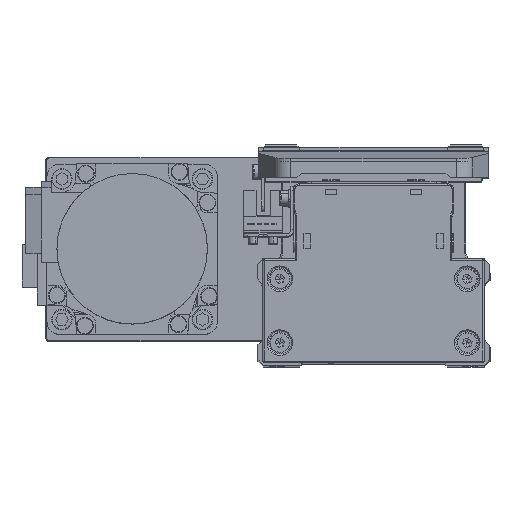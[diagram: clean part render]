
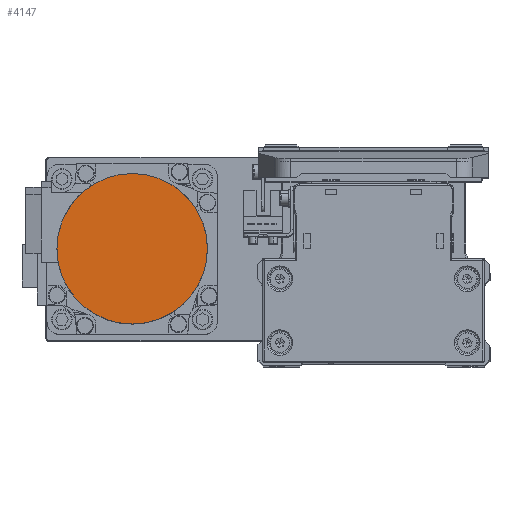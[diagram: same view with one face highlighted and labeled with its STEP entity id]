
A CAD part, top view. The second image highlights one B-rep face of the part: STEP entity #4147.
In plain terms, the highlighted planar face has unit normal (0, 0, 1) as drawn and (0, 0, -1) by its records, which use the part's own axes.
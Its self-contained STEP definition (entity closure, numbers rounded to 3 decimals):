
#7 = AXIS2_PLACEMENT_3D ( 'NONE', #17848, #30318, #2303 ) ;
#530 = DIRECTION ( 'NONE',  ( 0., 0., 1. ) ) ;
#1112 = VERTEX_POINT ( 'NONE', #19759 ) ;
#2303 = DIRECTION ( 'NONE',  ( 1., 0., 0. ) ) ;
#4147 = ADVANCED_FACE ( 'NONE', ( #36793 ), #8781, .F. ) ;
#5696 = DIRECTION ( 'NONE',  ( 1., 0., 0. ) ) ;
#7354 = CARTESIAN_POINT ( 'NONE',  ( 26.5, 0., -109.7 ) ) ;
#8781 = PLANE ( 'NONE',  #37845 ) ;
#11041 = ORIENTED_EDGE ( 'NONE', *, *, #36483, .F. ) ;
#13004 = DIRECTION ( 'NONE',  ( -1., 0., 0. ) ) ;
#15395 = AXIS2_PLACEMENT_3D ( 'NONE', #28536, #530, #13004 ) ;
#17642 = CIRCLE ( 'NONE', #7, 26.5 ) ;
#17848 = CARTESIAN_POINT ( 'NONE',  ( 0., 0., -109.7 ) ) ;
#18843 = EDGE_LOOP ( 'NONE', ( #38732, #11041 ) ) ;
#19759 = CARTESIAN_POINT ( 'NONE',  ( -26.5, 0., -109.7 ) ) ;
#21254 = CARTESIAN_POINT ( 'NONE',  ( 0., 0., -109.7 ) ) ;
#27789 = CIRCLE ( 'NONE', #15395, 26.5 ) ;
#28536 = CARTESIAN_POINT ( 'NONE',  ( 0., 0., -109.7 ) ) ;
#30318 = DIRECTION ( 'NONE',  ( 0., 0., 1. ) ) ;
#33299 = EDGE_CURVE ( 'NONE', #1112, #35514, #27789, .T. ) ;
#33728 = DIRECTION ( 'NONE',  ( 0., 0., 1. ) ) ;
#35514 = VERTEX_POINT ( 'NONE', #7354 ) ;
#36483 = EDGE_CURVE ( 'NONE', #35514, #1112, #17642, .T. ) ;
#36793 = FACE_OUTER_BOUND ( 'NONE', #18843, .T. ) ;
#37845 = AXIS2_PLACEMENT_3D ( 'NONE', #21254, #33728, #5696 ) ;
#38732 = ORIENTED_EDGE ( 'NONE', *, *, #33299, .F. ) ;
